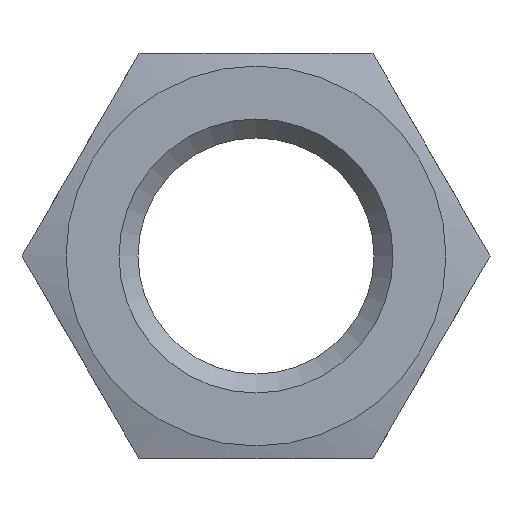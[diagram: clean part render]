
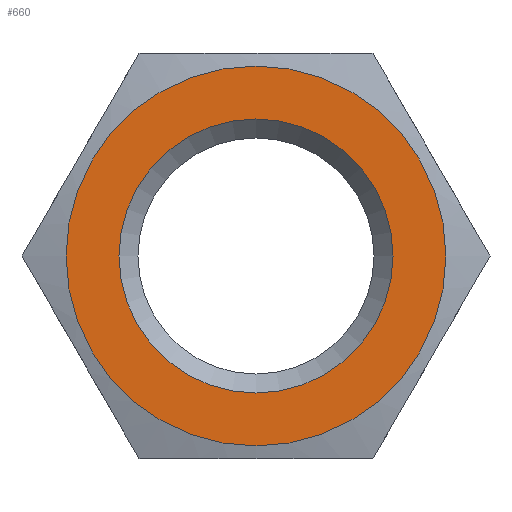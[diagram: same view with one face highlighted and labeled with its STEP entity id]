
A CAD part, front view. The second image highlights one B-rep face of the part: STEP entity #660.
In plain terms, the highlighted planar face has unit normal (0, -1, 0).
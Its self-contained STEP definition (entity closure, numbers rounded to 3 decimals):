
#106=FACE_BOUND('',#168,.T.);
#124=FACE_OUTER_BOUND('',#167,.T.);
#167=EDGE_LOOP('',(#505,#506));
#168=EDGE_LOOP('',(#507));
#223=CIRCLE('',#749,10.82);
#228=CIRCLE('',#756,15.);
#229=CIRCLE('',#757,15.);
#285=VERTEX_POINT('',#1122);
#290=VERTEX_POINT('',#1136);
#291=VERTEX_POINT('',#1137);
#364=EDGE_CURVE('',#285,#285,#223,.T.);
#371=EDGE_CURVE('',#290,#291,#228,.T.);
#372=EDGE_CURVE('',#291,#290,#229,.T.);
#505=ORIENTED_EDGE('',*,*,#371,.F.);
#506=ORIENTED_EDGE('',*,*,#372,.F.);
#507=ORIENTED_EDGE('',*,*,#364,.F.);
#636=PLANE('',#755);
#660=ADVANCED_FACE('',(#124,#106),#636,.T.);
#749=AXIS2_PLACEMENT_3D('',#1123,#908,#909);
#755=AXIS2_PLACEMENT_3D('',#1135,#922,#923);
#756=AXIS2_PLACEMENT_3D('',#1138,#924,#925);
#757=AXIS2_PLACEMENT_3D('',#1139,#926,#927);
#908=DIRECTION('center_axis',(0.,-1.,0.));
#909=DIRECTION('ref_axis',(0.,0.,-1.));
#922=DIRECTION('center_axis',(0.,-1.,0.));
#923=DIRECTION('ref_axis',(0.,0.,-1.));
#924=DIRECTION('center_axis',(0.,1.,0.));
#925=DIRECTION('ref_axis',(1.,0.,0.));
#926=DIRECTION('center_axis',(0.,1.,0.));
#927=DIRECTION('ref_axis',(1.,0.,0.));
#1122=CARTESIAN_POINT('',(0.,-40.,10.82));
#1123=CARTESIAN_POINT('Origin',(0.,-40.,0.));
#1135=CARTESIAN_POINT('Origin',(0.,-40.,15.));
#1136=CARTESIAN_POINT('',(0.,-40.,15.));
#1137=CARTESIAN_POINT('',(0.,-40.,-15.));
#1138=CARTESIAN_POINT('Origin',(0.,-40.,0.));
#1139=CARTESIAN_POINT('Origin',(0.,-40.,0.));
